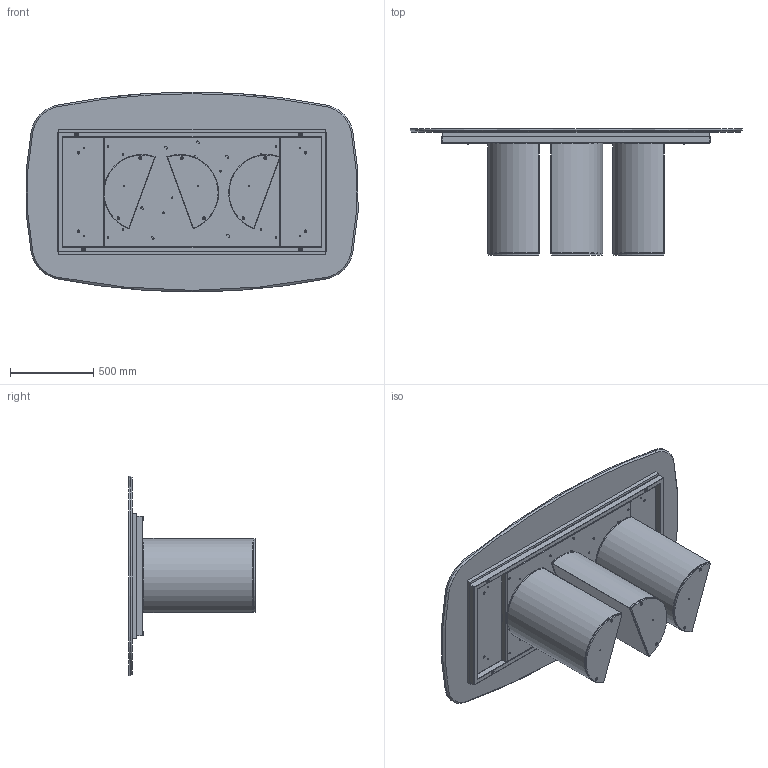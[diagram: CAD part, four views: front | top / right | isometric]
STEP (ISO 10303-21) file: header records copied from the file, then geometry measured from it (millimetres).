
FILE_DESCRIPTION (( 'STEP AP203' ), '1' );
FILE_NAME ('PL41M.STEP', '2024-08-07T13:54:20', ( '' ), ( '' ), 'SwSTEP 2.0', 'SolidWorks 2022', '' );
FILE_SCHEMA (( 'CONFIG_CONTROL_DESIGN' ));
Length unit declared in the file: millimetre
Products named in the file (16): rondella M8_8X24; M4XMXX-00-Piani Sagomati in marmo_2000x1200; TRUXXXXXX-00-NOBILITATO GR CON SUPP TRUCIOLARE SP. 25_TRU00004_1600x720; PL41M; Assieme Basamento PLAI_Basamento per tavoli; COLLO TELAIO UNIVERSALE TTAV0601 CON FERRAMENTA_FERRAMENTA MTG TOP LEGNO-MARMO-KING; M8xXXmm_hex_M8X60mm; TTAV0601_01-00-STRUTTURA X TAVOLI PLAI ONDA NOA 240; M8xXXmm_hex_M8X20mm; M8xXXmm_M8x20mm; PLA000000ZOC-01-PLAI ZOCCOLO DELLA BASE; M4X-00-Piani Sagomati in marmo_2000 x 1200; PLA000000BAS-00-PLAI BASE GREZZA; M8xXXmm_M8x55mm; TTAV0601_02-00-VASSOIO TAVOLI PLAI ONDA NOA 240; TTAV0601-00-TELAIO X TAVOLI PLAI ONDA NOA 240cm_TTAV06
Assembly tree (34 placements, depth 4):
  PL41M
    COLLO TELAIO UNIVERSALE TTAV0601 CON FERRAMENTA_FERRAMENTA MTG TOP LEGNO-MARMO-KING
      TTAV0601-00-TELAIO X TAVOLI PLAI ONDA NOA 240cm_TTAV06
        TTAV0601_02-00-VASSOIO TAVOLI PLAI ONDA NOA 240
        TTAV0601_01-00-STRUTTURA X TAVOLI PLAI ONDA NOA 240
      rondella M8_8X24  x4
      M8xXXmm_M8x55mm  x4
    Assieme Basamento PLAI_Basamento per tavoli  x3
      PLA000000BAS-00-PLAI BASE GREZZA
      PLA000000ZOC-01-PLAI ZOCCOLO DELLA BASE
      M8xXXmm_hex_M8X60mm
      M8xXXmm_hex_M8X20mm
    rondella M8_8X24  x6
    M8xXXmm_M8x20mm  x6
    M4XMXX-00-Piani Sagomati in marmo_2000x1200
      M4X-00-Piani Sagomati in marmo_2000 x 1200
      TRUXXXXXX-00-NOBILITATO GR CON SUPP TRUCIOLARE SP. 25_TRU00004_1600x720
Bounding box: 1992.14 x 759 x 1200 mm (x, y, z)
Volume: 86190016.1 mm3; surface area: 15619322.5 mm2
Topology: 45 solids, 45 shells, 1324 faces, 3002 edges, 1731 vertices
Faces by surface type: plane 513, cylinder 380, cone 291, torus 132, sphere 8
Entity records: 22078 total; most frequent: DIRECTION 3672, CARTESIAN_POINT 3456, ORIENTED_EDGE 3208, EDGE_CURVE 1604, AXIS2_PLACEMENT_3D 1383, VERTEX_POINT 963, LINE 906, VECTOR 906
